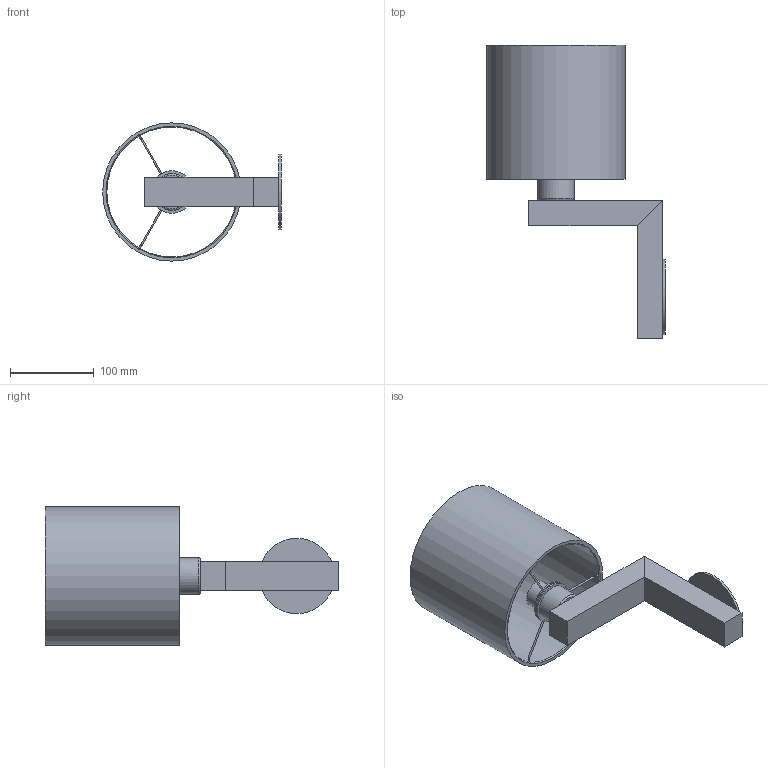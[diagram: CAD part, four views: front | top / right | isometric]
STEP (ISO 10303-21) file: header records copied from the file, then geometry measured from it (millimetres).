
FILE_DESCRIPTION(/* description */ (''),/* implementation_level */ '2;1');
FILE_NAME(/* name */ 'C:/Users/kubaw/OneDrive/Pulpit/TK_lighting - modele 2/OK/3372_TROY v5/3372_TROY v5.step',/* time_stamp */ '2021-04-02T06:54:35+02:00',/* author */ (''),/* organization */ (''),/* preprocessor_version */ 'ST-DEVELOPER v18.1',/* originating_system */ 'Autodesk Translation Framework v9.10.0.1330',/* authorisation */ '');
FILE_SCHEMA (('AUTOMOTIVE_DESIGN { 1 0 10303 214 3 1 1 }'));
Length unit declared in the file: millimetre
Products named in the file (2): 3372_TROY; MOCOWANIE_TROY 3372
Assembly tree (1 placements, depth 2):
  3372_TROY
    MOCOWANIE_TROY 3372
Bounding box: 213 x 350 x 165 mm (x, y, z)
Volume: 634779.2 mm3; surface area: 248942.9 mm2
Topology: 12 solids, 12 shells, 72 faces, 114 edges, 76 vertices
Faces by surface type: plane 42, cylinder 22, torus 7, bspline 1
Full cylindrical faces by diameter (mm): 2 x6, 2.5 x6, 27.125 x1, 31.5 x1, 32.375 x1, 35 x1, 43.75 x1, 49 x1, 50.75 x1, 90 x1, 159 x1, 165 x1
Entity records: 1848 total; most frequent: CARTESIAN_POINT 378, DIRECTION 326, ORIENTED_EDGE 228, AXIS2_PLACEMENT_3D 140, EDGE_CURVE 114, EDGE_LOOP 86, VERTEX_POINT 76, FACE_OUTER_BOUND 72
